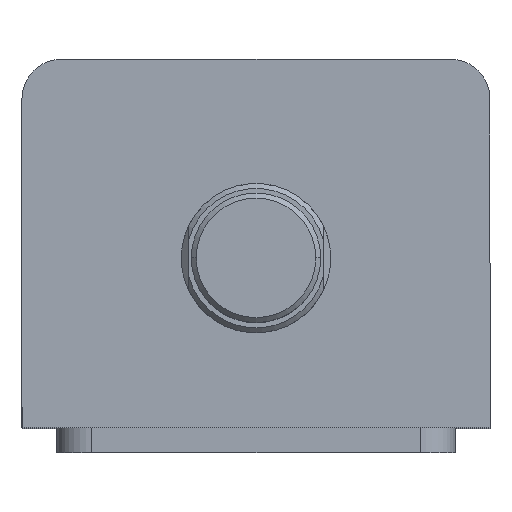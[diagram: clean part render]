
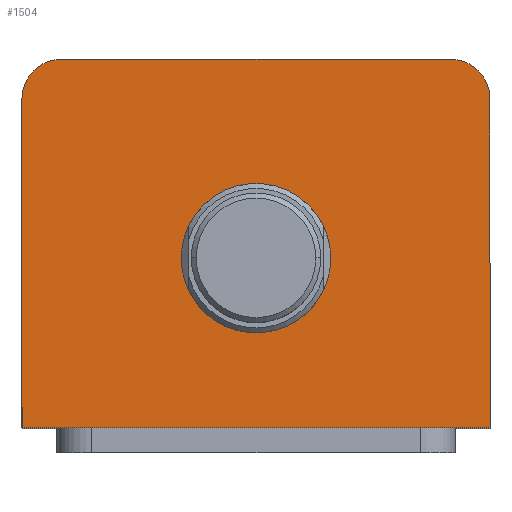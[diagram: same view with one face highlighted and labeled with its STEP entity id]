
A CAD part, top view. The second image highlights one B-rep face of the part: STEP entity #1504.
In plain terms, the highlighted planar face has unit normal (0, 0, 1).
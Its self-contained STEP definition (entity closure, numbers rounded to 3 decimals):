
#24 = AXIS2_PLACEMENT_3D ( 'NONE', #2079, #1987, #1985 ) ;
#44 = AXIS2_PLACEMENT_3D ( 'NONE', #394, #393, #391 ) ;
#52 = AXIS2_PLACEMENT_3D ( 'NONE', #275, #272, #269 ) ;
#57 = AXIS2_PLACEMENT_3D ( 'NONE', #389, #387, #386 ) ;
#105 = AXIS2_PLACEMENT_3D ( 'NONE', #2989, #2983, #2982 ) ;
#269 = DIRECTION ( 'NONE',  ( 1., 0., 0. ) ) ;
#272 = DIRECTION ( 'NONE',  ( 0., 0., 1. ) ) ;
#275 = CARTESIAN_POINT ( 'NONE',  ( -39., 29., 160. ) ) ;
#386 = DIRECTION ( 'NONE',  ( 1., 0., 0. ) ) ;
#387 = DIRECTION ( 'NONE',  ( 0., 0., 1. ) ) ;
#389 = CARTESIAN_POINT ( 'NONE',  ( 0., -3., 160. ) ) ;
#391 = DIRECTION ( 'NONE',  ( 1., 0., 0. ) ) ;
#393 = DIRECTION ( 'NONE',  ( 0., 0., 1. ) ) ;
#394 = CARTESIAN_POINT ( 'NONE',  ( 39., 29., 160. ) ) ;
#411 = DIRECTION ( 'NONE',  ( 0., -1., 0. ) ) ;
#412 = CARTESIAN_POINT ( 'NONE',  ( -47., 37., 160. ) ) ;
#430 = DIRECTION ( 'NONE',  ( 1., 0., 0. ) ) ;
#431 = CARTESIAN_POINT ( 'NONE',  ( -47., -37., 160. ) ) ;
#489 = CIRCLE ( 'NONE', #24, 15. ) ;
#528 = LINE ( 'NONE', #2159, #531 ) ;
#531 = VECTOR ( 'NONE', #1895, 1000. ) ;
#573 = LINE ( 'NONE', #2073, #576 ) ;
#576 = VECTOR ( 'NONE', #2056, 1000. ) ;
#589 = CIRCLE ( 'NONE', #44, 8. ) ;
#603 = CIRCLE ( 'NONE', #52, 8. ) ;
#611 = LINE ( 'NONE', #431, #614 ) ;
#614 = VECTOR ( 'NONE', #430, 1000. ) ;
#627 = LINE ( 'NONE', #412, #630 ) ;
#630 = VECTOR ( 'NONE', #411, 1000. ) ;
#644 = CIRCLE ( 'NONE', #57, 15. ) ;
#743 = FACE_BOUND ( 'NONE', #1787, .T. ) ;
#748 = FACE_OUTER_BOUND ( 'NONE', #1816, .T. ) ;
#1042 = EDGE_CURVE ( 'NONE', #1674, #1664, #489, .T. ) ;
#1066 = EDGE_CURVE ( 'NONE', #1687, #2701, #528, .T. ) ;
#1090 = EDGE_CURVE ( 'NONE', #2711, #2739, #573, .T. ) ;
#1103 = EDGE_CURVE ( 'NONE', #2701, #2711, #589, .T. ) ;
#1113 = EDGE_CURVE ( 'NONE', #2739, #2706, #603, .T. ) ;
#1119 = EDGE_CURVE ( 'NONE', #1692, #1687, #611, .T. ) ;
#1127 = EDGE_CURVE ( 'NONE', #2706, #1692, #627, .T. ) ;
#1136 = EDGE_CURVE ( 'NONE', #1664, #1674, #644, .T. ) ;
#1504 = ADVANCED_FACE ( 'NONE', ( #743, #748 ), #2988, .T. ) ;
#1664 = VERTEX_POINT ( 'NONE', #2458 ) ;
#1674 = VERTEX_POINT ( 'NONE', #2447 ) ;
#1687 = VERTEX_POINT ( 'NONE', #2428 ) ;
#1692 = VERTEX_POINT ( 'NONE', #2423 ) ;
#1787 = EDGE_LOOP ( 'NONE', ( #2819, #2811 ) ) ;
#1816 = EDGE_LOOP ( 'NONE', ( #2813, #2878, #2795, #2797, #2794, #2806 ) ) ;
#1895 = DIRECTION ( 'NONE',  ( 0., 1., 0. ) ) ;
#1985 = DIRECTION ( 'NONE',  ( 1., 0., 0. ) ) ;
#1987 = DIRECTION ( 'NONE',  ( 0., 0., 1. ) ) ;
#2056 = DIRECTION ( 'NONE',  ( -1., 0., 0. ) ) ;
#2073 = CARTESIAN_POINT ( 'NONE',  ( -47., 37., 160. ) ) ;
#2079 = CARTESIAN_POINT ( 'NONE',  ( 0., -3., 160. ) ) ;
#2159 = CARTESIAN_POINT ( 'NONE',  ( 47., 37., 160. ) ) ;
#2313 = CARTESIAN_POINT ( 'NONE',  ( 39., 37., 160. ) ) ;
#2323 = CARTESIAN_POINT ( 'NONE',  ( -47., 29., 160. ) ) ;
#2328 = CARTESIAN_POINT ( 'NONE',  ( 47., 29., 160. ) ) ;
#2351 = CARTESIAN_POINT ( 'NONE',  ( -39., 37., 160. ) ) ;
#2423 = CARTESIAN_POINT ( 'NONE',  ( -47., -37., 160. ) ) ;
#2428 = CARTESIAN_POINT ( 'NONE',  ( 47., -37., 160. ) ) ;
#2447 = CARTESIAN_POINT ( 'NONE',  ( -15., -3., 160. ) ) ;
#2458 = CARTESIAN_POINT ( 'NONE',  ( 15., -3., 160. ) ) ;
#2701 = VERTEX_POINT ( 'NONE', #2328 ) ;
#2706 = VERTEX_POINT ( 'NONE', #2323 ) ;
#2711 = VERTEX_POINT ( 'NONE', #2313 ) ;
#2739 = VERTEX_POINT ( 'NONE', #2351 ) ;
#2794 = ORIENTED_EDGE ( 'NONE', *, *, #1066, .T. ) ;
#2795 = ORIENTED_EDGE ( 'NONE', *, *, #1127, .T. ) ;
#2797 = ORIENTED_EDGE ( 'NONE', *, *, #1119, .T. ) ;
#2806 = ORIENTED_EDGE ( 'NONE', *, *, #1103, .T. ) ;
#2811 = ORIENTED_EDGE ( 'NONE', *, *, #1042, .F. ) ;
#2813 = ORIENTED_EDGE ( 'NONE', *, *, #1090, .T. ) ;
#2819 = ORIENTED_EDGE ( 'NONE', *, *, #1136, .F. ) ;
#2878 = ORIENTED_EDGE ( 'NONE', *, *, #1113, .T. ) ;
#2982 = DIRECTION ( 'NONE',  ( 1., 0., 0. ) ) ;
#2983 = DIRECTION ( 'NONE',  ( 0., 0., 1. ) ) ;
#2988 = PLANE ( 'NONE',  #105 ) ;
#2989 = CARTESIAN_POINT ( 'NONE',  ( 0., 0., 160. ) ) ;
